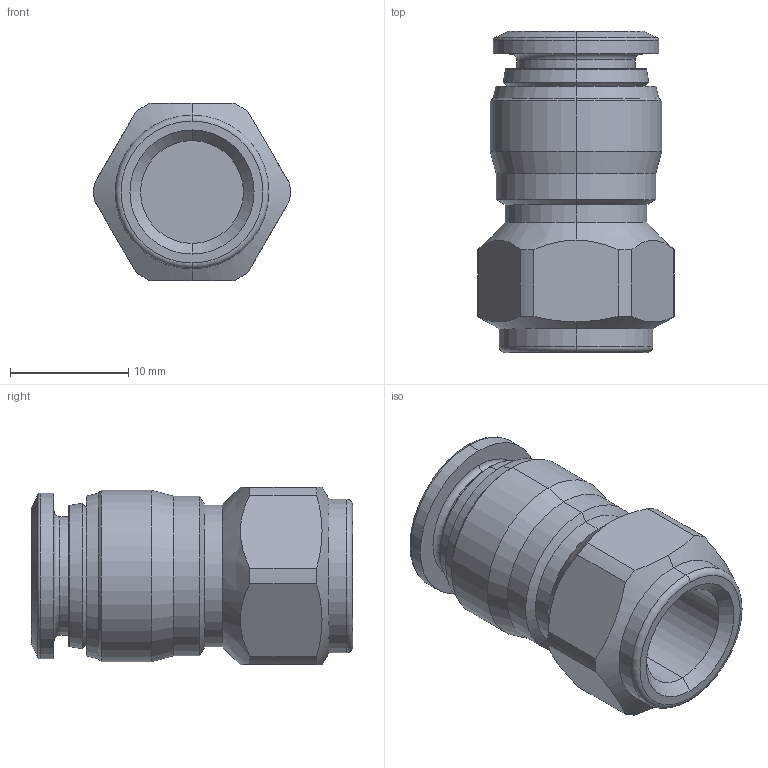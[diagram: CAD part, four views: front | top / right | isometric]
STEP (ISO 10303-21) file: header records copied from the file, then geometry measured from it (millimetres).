
FILE_DESCRIPTION (( 'STEP AP214' ), '1' );
FILE_NAME ('40030V0004A.STEP', '2020-10-30T16:04:45', ( 'admin' ), ( '' ), 'SwSTEP 2.0', 'SolidWorks 2016', '' );
FILE_SCHEMA (( 'AUTOMOTIVE_DESIGN' ));
Length unit declared in the file: millimetre
Products named in the file (1): 40030V0004A
Bounding box: 16.59 x 27.15 x 15 mm (x, y, z)
Volume: 2793.4 mm3; surface area: 2336.6 mm2
Topology: 1 solids, 1 shells, 63 faces, 138 edges, 82 vertices
Faces by surface type: cylinder 22, cone 20, plane 13, torus 8
Entity records: 1864 total; most frequent: CARTESIAN_POINT 420, DIRECTION 324, ORIENTED_EDGE 276, EDGE_CURVE 138, AXIS2_PLACEMENT_3D 138, VERTEX_POINT 82, CIRCLE 74, EDGE_LOOP 68
